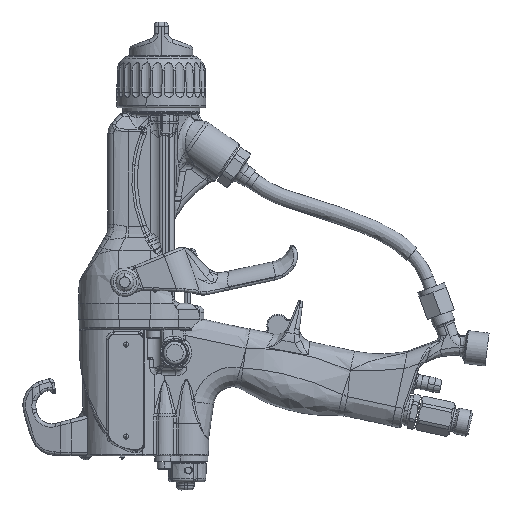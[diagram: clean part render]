
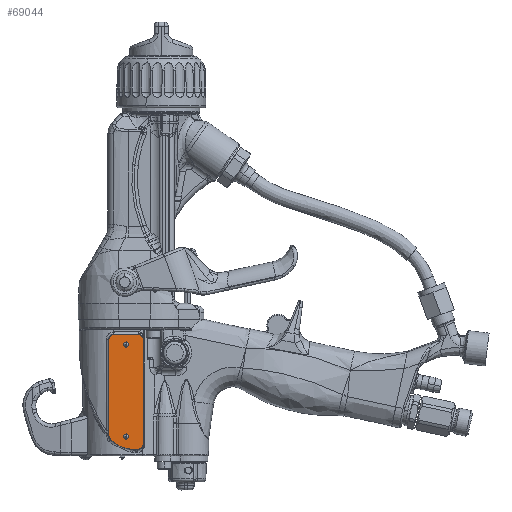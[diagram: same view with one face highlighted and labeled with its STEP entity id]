
A CAD part, left-side view. The second image highlights one B-rep face of the part: STEP entity #69044.
In plain terms, the highlighted planar face has unit normal (-1, 0.003, 0).
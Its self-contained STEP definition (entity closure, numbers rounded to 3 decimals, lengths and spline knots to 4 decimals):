
#60827=CARTESIAN_POINT('',(-0.7542,0.4558,-5.2));
#60828=DIRECTION('',(-1.,0.003,0.));
#60829=DIRECTION('',(-0.003,-1.,0.));
#60830=AXIS2_PLACEMENT_3D('',#60827,#60828,#60829);
#60832=DIRECTION('',(0.,0.,1.));
#60833=VECTOR('',#60832,2.062);
#60834=CARTESIAN_POINT('',(-0.7544,0.3573,-7.262));
#60835=LINE('',#60834,#60833);
#60836=CARTESIAN_POINT('',(-0.7542,0.4558,-7.262));
#60837=DIRECTION('',(-1.,0.003,0.));
#60838=DIRECTION('',(0.,0.,-1.));
#60839=AXIS2_PLACEMENT_3D('',#60836,#60837,#60838);
#60841=DIRECTION('',(-0.003,-1.,0.));
#60842=VECTOR('',#60841,0.087);
#60843=CARTESIAN_POINT('',(-0.7539,0.5428,
-7.3605));
#60844=LINE('',#60843,#60842);
#60845=CARTESIAN_POINT('',(-0.7539,0.5428,-6.722));
#60846=DIRECTION('',(-1.,0.003,0.));
#60847=DIRECTION('',(0.002,0.713,-0.701));
#60848=AXIS2_PLACEMENT_3D('',#60845,#60846,#60847);
#60850=CARTESIAN_POINT('',(-0.7529,0.9208,
-7.0935));
#60851=DIRECTION('',(-1.,0.003,0.));
#60852=DIRECTION('',(0.003,1.,0.));
#60853=AXIS2_PLACEMENT_3D('',#60850,#60851,#60852);
#60855=DIRECTION('',(0.,0.,-1.));
#60856=VECTOR('',#60855,1.8935);
#60857=CARTESIAN_POINT('',(-0.7526,1.0292,-5.2));
#60858=LINE('',#60857,#60856);
#60859=CARTESIAN_POINT('',(-0.7528,0.9308,-5.2));
#60860=DIRECTION('',(-1.,0.003,0.));
#60861=DIRECTION('',(0.,0.,1.));
#60862=AXIS2_PLACEMENT_3D('',#60859,#60860,#60861);
#60864=DIRECTION('',(-0.003,-1.,0.));
#60865=VECTOR('',#60864,0.475);
#60866=CARTESIAN_POINT('',(-0.7528,0.9308,
-5.1015));
#60867=LINE('',#60866,#60865);
#65495=CARTESIAN_POINT('',(-0.7544,0.3573,-5.2));
#65496=CARTESIAN_POINT('',(-0.7542,0.4558,
-5.1015));
#65497=VERTEX_POINT('',#65495);
#65498=VERTEX_POINT('',#65496);
#65499=CARTESIAN_POINT('',(-0.7528,0.9308,
-5.1015));
#65500=VERTEX_POINT('',#65499);
#65501=CARTESIAN_POINT('',(-0.7526,1.0292,-5.2));
#65502=VERTEX_POINT('',#65501);
#65503=CARTESIAN_POINT('',(-0.7526,1.0292,
-7.0935));
#65504=VERTEX_POINT('',#65503);
#65505=CARTESIAN_POINT('',(-0.7527,0.9981,
-7.1695));
#65506=VERTEX_POINT('',#65505);
#65507=CARTESIAN_POINT('',(-0.7539,0.5428,
-7.3605));
#65508=VERTEX_POINT('',#65507);
#65509=CARTESIAN_POINT('',(-0.7542,0.4558,
-7.3605));
#65510=VERTEX_POINT('',#65509);
#65511=CARTESIAN_POINT('',(-0.7544,0.3573,-7.262));
#65512=VERTEX_POINT('',#65511);
#69019=CARTESIAN_POINT('',(-0.7551,0.1308,-4.53));
#69020=DIRECTION('',(1.,-0.003,0.));
#69021=DIRECTION('',(0.,0.,-1.));
#69022=AXIS2_PLACEMENT_3D('',#69019,#69020,#69021);
#69023=PLANE('',#69022);
#69025=ORIENTED_EDGE('',*,*,#69024,.F.);
#69027=ORIENTED_EDGE('',*,*,#69026,.F.);
#69029=ORIENTED_EDGE('',*,*,#69028,.F.);
#69031=ORIENTED_EDGE('',*,*,#69030,.F.);
#69033=ORIENTED_EDGE('',*,*,#69032,.F.);
#69035=ORIENTED_EDGE('',*,*,#69034,.F.);
#69037=ORIENTED_EDGE('',*,*,#69036,.F.);
#69039=ORIENTED_EDGE('',*,*,#69038,.F.);
#69041=ORIENTED_EDGE('',*,*,#69040,.T.);
#69042=EDGE_LOOP('',(#69025,#69027,#69029,#69031,#69033,#69035,#69037,#69039,
#69041));
#69043=FACE_OUTER_BOUND('',#69042,.F.);
#69044=ADVANCED_FACE('',(#69043),#69023,.F.);
#60831=CIRCLE('',#60830,0.0985);
#60840=CIRCLE('',#60839,0.0985);
#60849=CIRCLE('',#60848,0.6385);
#60854=CIRCLE('',#60853,0.1085);
#60863=CIRCLE('',#60862,0.0985);
#69024=EDGE_CURVE('',#65497,#65498,#60831,.T.);
#69026=EDGE_CURVE('',#65512,#65497,#60835,.T.);
#69028=EDGE_CURVE('',#65510,#65512,#60840,.T.);
#69030=EDGE_CURVE('',#65508,#65510,#60844,.T.);
#69032=EDGE_CURVE('',#65506,#65508,#60849,.T.);
#69034=EDGE_CURVE('',#65504,#65506,#60854,.T.);
#69036=EDGE_CURVE('',#65502,#65504,#60858,.T.);
#69038=EDGE_CURVE('',#65500,#65502,#60863,.T.);
#69040=EDGE_CURVE('',#65500,#65498,#60867,.T.);
